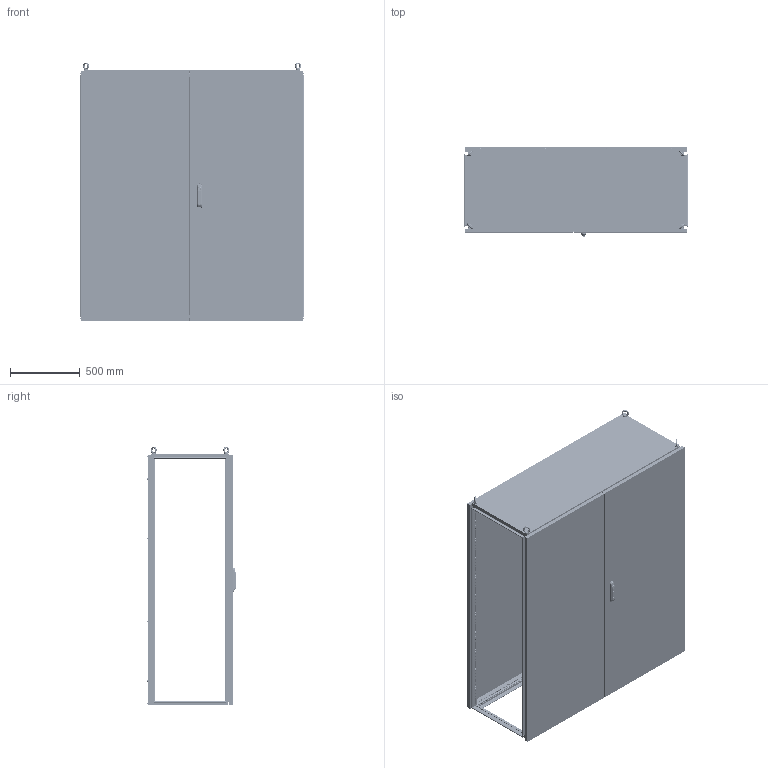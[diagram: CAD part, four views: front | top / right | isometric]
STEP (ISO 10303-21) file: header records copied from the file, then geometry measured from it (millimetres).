
FILE_DESCRIPTION(/* description */ ('Unknown'),/* implementation_level */ '2;1');
FILE_NAME(/* name */ 'MCA16018060',/* time_stamp */ '2025-03-07T12:05:28+01:00',/* author */ ('Unknown'),/* organization */ ('Unknown'),/* preprocessor_version */ 'ST-DEVELOPER v19.4',/* originating_system */ 'Solid Edge',/* authorisation */ 'Unknown');
FILE_SCHEMA (('CONFIG_CONTROL_DESIGN'));
Products named in the file (65): MCA16018060; F0000000.08; AE00198.03; F000X001.22; F000X001.23; F000X001.24; F0000000.98; AE00417.01; AE00413.05; F000X000.71; F0000002.21; F0000002.17; AE01400.01; AE00222.15; AE00636.02; AE00316.01; F0000000.12; AE00992.31; AE00992.10_oa_0; AE00992.18; AE00992.77; AE00992.14; AE00989.13; AE00992.16; AE00315.01; M000X002.01; M0000000.29; AE00500.10; M000X001.21; M0000000.52; M0000000.39; M0000000.06; M000X000.23; M0000000.40; M0000000.41; AE00219.03; AE00715.01; M000X001.31; M0000001.14; C0000000.06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
Assembly tree (290 placements, depth 5):
  MCA16018060
    F0000000.08  x8
    AE00198.03  x16
    F000X001.22
      F000X001.23
        F000X001.24
          F0000000.98
        AE00417.01  x2
        AE00413.05  x4
        F000X000.71
          F0000002.21  x2
          F0000002.17  x2
          AE01400.01  x4
      AE00222.15  x8
      AE00636.02  x8
      AE00316.01  x8
      F0000000.12  x8
      AE00992.31
      AE00992.10_oa_0
      AE00992.18  x4
      AE00992.77  x2
      AE00992.14
      AE00989.13
      AE00992.16
      AE00315.01  x4
    M000X002.01
      M0000000.29  x4
      AE00500.10  x52
      M000X001.21  x2
        M0000000.52
        M0000000.39
        M0000000.06
        M000X000.23
          M0000000.40
          M0000000.41
    AE00219.03  x10
    AE00715.01  x4
    M000X001.31
      M0000001.14
    C0000000.06  x4
      C0000001.23
      C0000000.06_GOMMA
    F0000000.13  x8
    F000X001.17
      F000X001.18
        F0000000.96
      F0000000.07  x4
      AE00100.03_oa_1
      AE00100.03_oa_2
      AE00100.03_oa_3
      AE00100.03_oa_4
      AE00100.03_oa_5
      AE00100.03_oa_6
      AE00100.03_oa_7
      AE00100.03_oa_8
    AE00701.03  x8
    M0000000.37  x10
    F000X001.19
      F000X001.20
        F000X001.21
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Bounding box: 1600 x 638.2 x 1856.91 mm (x, y, z)
Volume: 29477209.8 mm3; surface area: 23727221.3 mm2
Topology: 320 solids, 320 shells, 14221 faces, 40674 edges, 27311 vertices
Faces by surface type: plane 9995, cylinder 3395, cone 688, torus 94, bspline 25, sphere 24
Full cylindrical faces by diameter (mm): 2 x8, 2.6 x8, 3 x1, 3.2 x2, 3.242 x2, 4 x34, 4.134 x9, 4.25 x372, 4.5 x1294, 4.8 x8, 4.917 x74, 4.918 x16, 5 x20, 5.5 x2, 6 x88, 6.1 x40, 6.2 x17, 6.5 x24, 6.8 x2, 7.5 x4, 7.8 x4, 8 x12, 8.3 x16, 8.5 x2, 9 x52, 10 x1, 10.106 x8, 10.5 x16, 11.8 x16, 12 x22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
Entity records: 114183 total; most frequent: CARTESIAN_POINT 20332, ORIENTED_EDGE 17622, DIRECTION 17446, EDGE_CURVE 8811, LINE 6910, VECTOR 6910, VERTEX_POINT 6242, FACE_BOUND 5741
